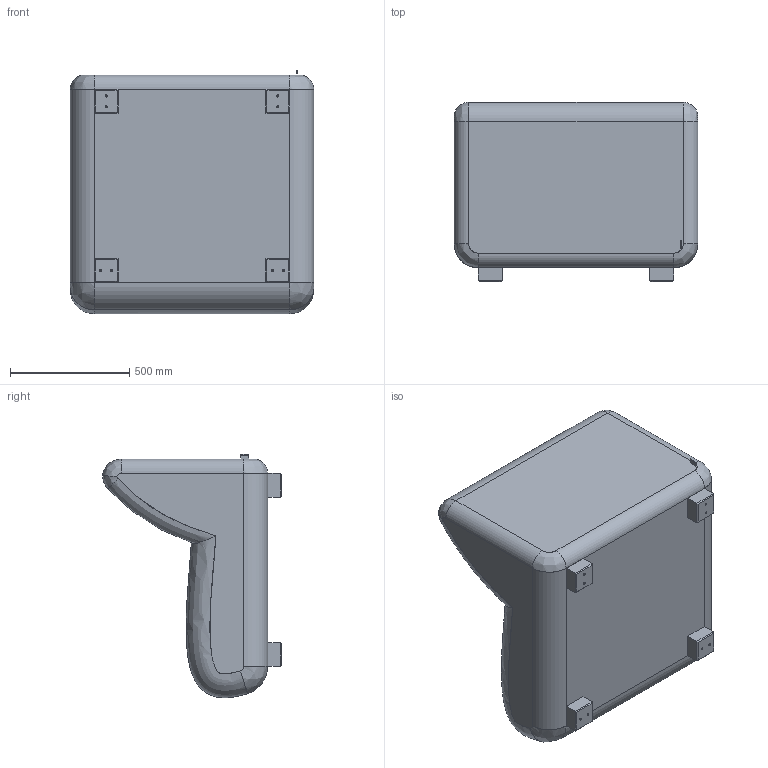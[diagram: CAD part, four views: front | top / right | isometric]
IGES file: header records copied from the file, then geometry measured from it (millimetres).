
Start section: SolidWorks IGES file using analytic representation for surfaces
Global section: file name: C:\SANTACOLE_PDM\Proyectos Catálogo\PROD-P09-006 -- CADAQUÉS\6_Técnico comercial\3D\Butaca Cadaques.IGS; native system: SolidWorks 2019; preprocessor: SolidWorks 2019; author: louis.ferraz; date: 200408.134320; units: millimetre
Bounding box: 1020 x 750 x 1020 mm (x, y, z)
Surface area: 3869456.9 mm2 (no closed solid volume)
Topology: 0 solids, 0 shells, 472 faces, 4699 edges, 4699 vertices
Faces by surface type: bspline 416, revolution 56
